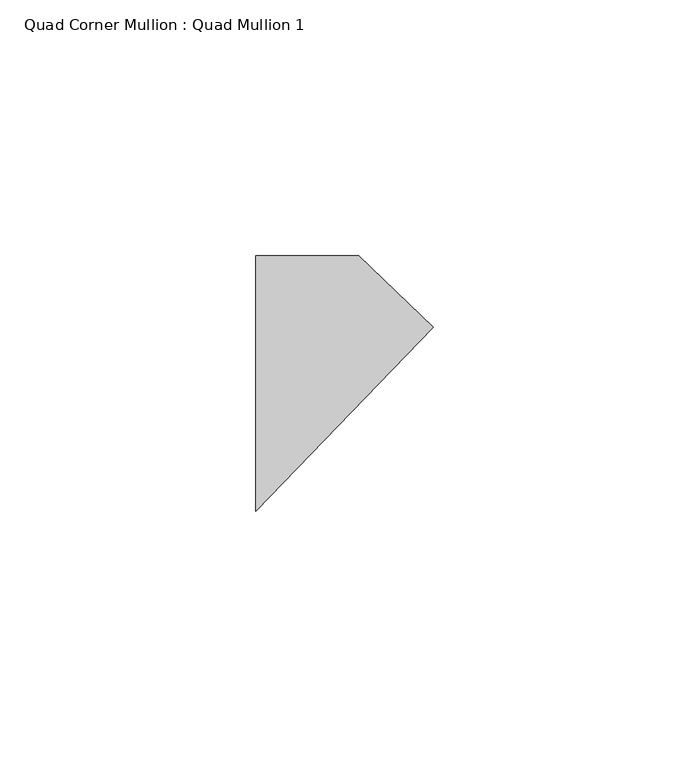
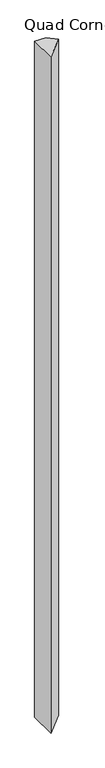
"""IFC4 building model written with IfcOpenShell, lengths in millimetres: member geometry, Quad Corner Mullion : Quad Mullion 1."""

from ifc_helpers import new_model, si_unit, frame, origin, place, context, project, spatial, polyline, outline, extrude, source, transform, mapped, element, save


def quad_corner_mullion_quad_mullion_1_b0435e24(model_context):
    return source(origin(), model_context, "Body", "SweptSolid", [
        extrude(outline(polyline([(24.6322629, 10.96699), (-10.1006556, -25.0), (-10.1006556, 25.0), (10.1006556, 25.0), (24.6322629, 10.96699)])), frame((0.0, 0.0, -1280.0), z_axis=(0.0, 0.0, 1.0), x_axis=(1.0, 0.0, 0.0)), (0.0, 0.0, 1.0), 1280.0),
    ])


if __name__ == "__main__":
    model = new_model("IFC4")
    model_context = context("Model", 3, world=origin())
    ifc_project = project(units=[si_unit("LENGTHUNIT", "METRE", prefix="MILLI")], contexts=[model_context])
    site = spatial("IfcSite", under=ifc_project)
    building = spatial("IfcBuilding", under=site)
    placement = place(None, origin())
    quad_corner_mullion_quad_mullion_1_shape = quad_corner_mullion_quad_mullion_1_b0435e24(model_context)
    element("IfcMember", 1, ObjectType="Quad Corner Mullion : Quad Mullion 1", at=placement, inside=building, context=model_context, shape_type="MappedRepresentation", body=[
        mapped(quad_corner_mullion_quad_mullion_1_shape, transform((0.0, 0.0, 0.0), x_axis=(1.0, 0.0, 0.0), y_axis=(0.0, 1.0, 0.0), z_axis=(0.0, 0.0, 1.0))),
    ])
    save(model, "model.ifc")
